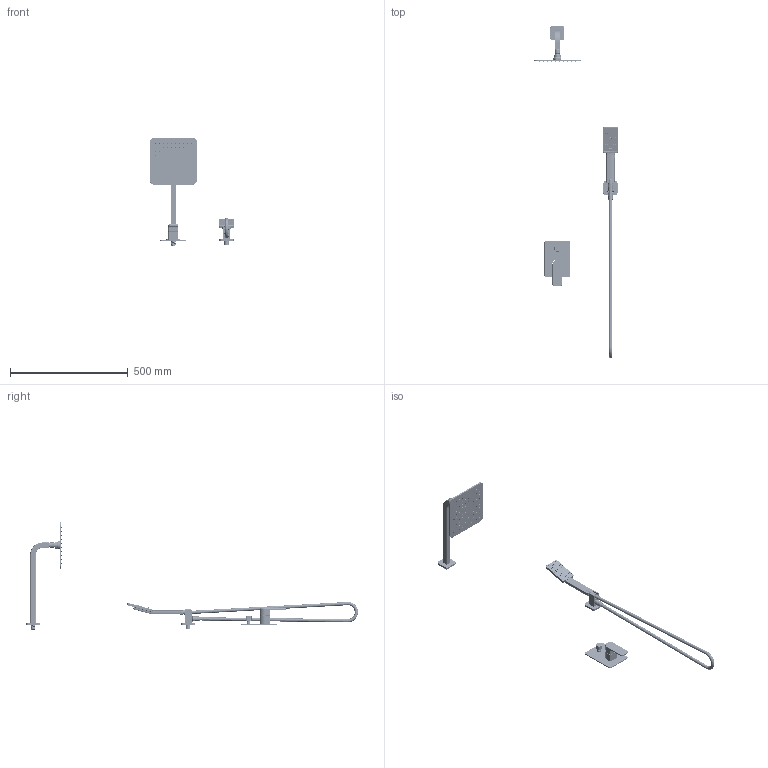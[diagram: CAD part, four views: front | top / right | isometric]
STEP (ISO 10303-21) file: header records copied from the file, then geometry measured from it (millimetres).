
FILE_DESCRIPTION(/* description */ (''),/* implementation_level */ '2;1');
FILE_NAME(/* name */ 'c:\worker\convert-fusion-apr-2019\tmp\job-1\13\output\files\cb950ccb-47ea-46e2-b32f-9bbe69adca05\8262cc6e-7422-41d1-a9e3-1322c1a0a57c.stp',/* time_stamp */ '2019-05-07T10:53:08+00:00',/* author */ (''),/* organization */ (''),/* preprocessor_version */ 'ST-DEVELOPER v18',/* originating_system */ 'Autodesk Translation Framework v8.2.0.1029',/* authorisation */ '');
FILE_SCHEMA (('AUTOMOTIVE_DESIGN { 1 0 10303 214 3 1 1 }'));
Products named in the file (7): !SYS BA10 BL; !8815 v4; !RA15 v1; waz v1; waz v1 (1); !JimJim-R v1; !WG220/O v2
Assembly tree (6 placements, depth 2):
  !SYS BA10 BL
    !8815 v4
    !RA15 v1
    waz v1
    waz v1 (1)
    !JimJim-R v1
    !WG220/O v2
Bounding box: 357.85 x 1407.43 x 461.25 mm (x, y, z)
Volume: 767527.6 mm3; surface area: 617163.8 mm2
Topology: 78 solids, 79 shells, 8753 faces, 22742 edges, 14357 vertices
Faces by surface type: plane 2628, cylinder 2435, torus 1483, cone 1093, bspline 1008, sphere 106
Full cylindrical faces by diameter (mm): 0.7 x15, 1.7 x8, 2.5 x23, 2.6 x8, 3 x23, 3.2 x2, 3.5 x110, 4 x1, 4.2 x100, 4.5 x1, 5 x15, 5.5 x15, 6 x15, 6.2 x1, 7 x16, 10 x1, 10.3 x1, 11 x1, 11.8 x1, 12 x2, 12.5 x1, 12.8 x1, 13 x2, 13.6 x1, 14 x8, 15 x2, 15.5 x1, 15.9 x1, 16 x1, 16.5 x1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
Entity records: 388248 total; most frequent: CARTESIAN_POINT 170959, DIRECTION 47117, ORIENTED_EDGE 45180, EDGE_CURVE 22616, AXIS2_PLACEMENT_3D 18763, VERTEX_POINT 14357, CIRCLE 10554, EDGE_LOOP 9894
